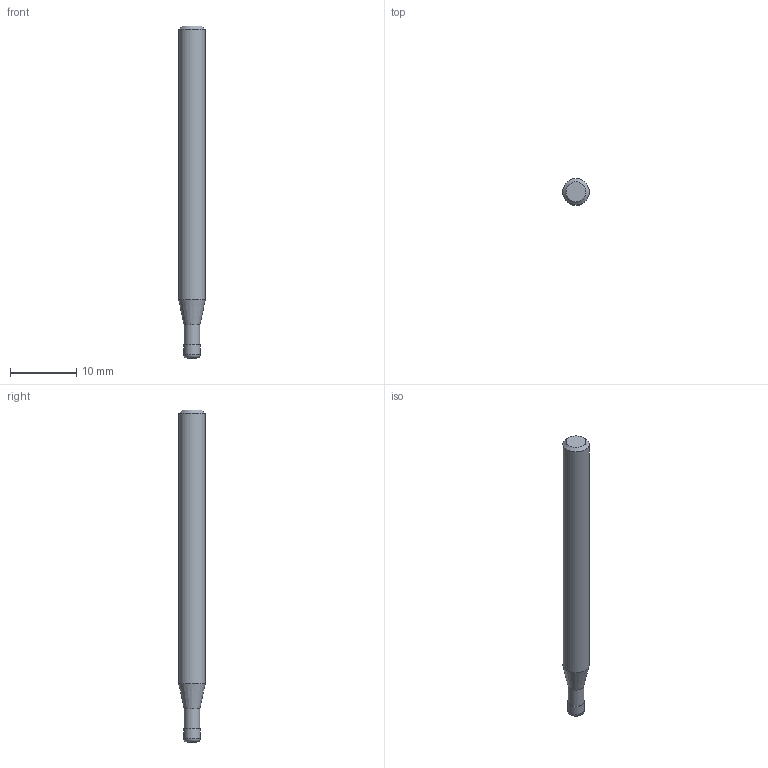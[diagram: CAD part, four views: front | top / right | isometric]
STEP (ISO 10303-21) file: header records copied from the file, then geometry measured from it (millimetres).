
FILE_DESCRIPTION((''),'2;1');
FILE_NAME('C:\Users\nsx150\AppData\Local\Temp\Mastercam 2021\CSMVKW3037\TEMP.step','2023-06-23T16:03:49',(''),(''),'STEP Write','Mastercam 2021 ... CNC Software, Inc.','');
FILE_SCHEMA(('AUTOMOTIVE_DESIGN'));
Length unit declared in the file: millimetre
Products named in the file (1): None
Bounding box: 4 x 4 x 50 mm (x, y, z)
Volume: 570.4 mm3; surface area: 616.1 mm2
Topology: 2 solids, 2 shells, 10 faces, 14 edges, 8 vertices
Faces by surface type: plane 4, cylinder 3, cone 2, torus 1
Full cylindrical faces by diameter (mm): 2.39 x1, 2.5 x1, 4 x1
Entity records: 232 total; most frequent: DIRECTION 40, CARTESIAN_POINT 28, AXIS2_PLACEMENT_3D 20, ORIENTED_EDGE 16, EDGE_LOOP 16, STYLED_ITEM 13, ADVANCED_FACE 10, FACE_BOUND 10
